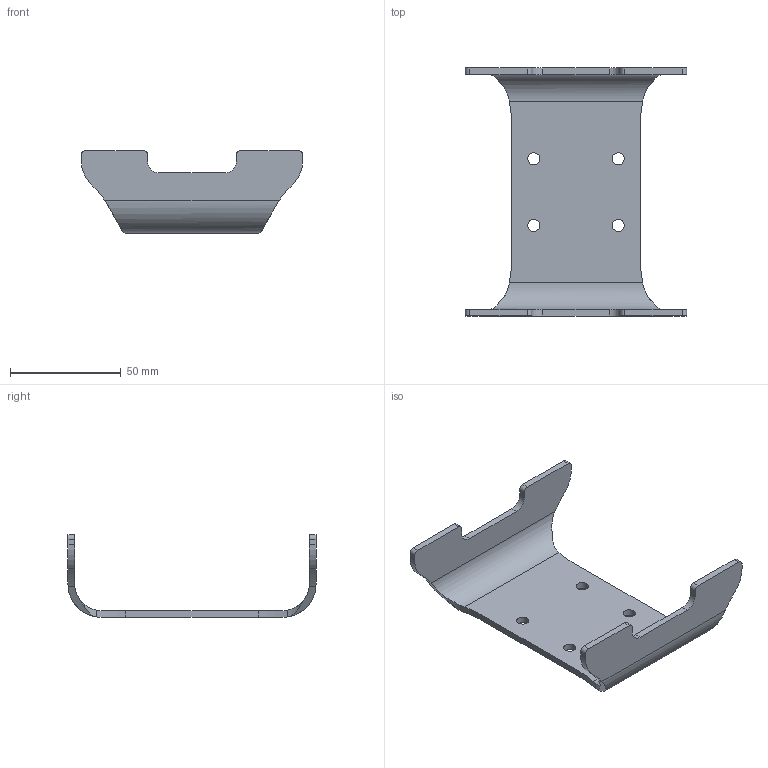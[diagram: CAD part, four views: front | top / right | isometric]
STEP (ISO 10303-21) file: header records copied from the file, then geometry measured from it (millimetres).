
FILE_DESCRIPTION( ( 'STEP AP203' ), '1' );
FILE_NAME( 'p:/temp/worker_44/temp/exporttempdir_4828_17_UeS2M/format_7/EC0730.stp', '2020-06-16T07:11:07', ( 'License CC BY-ND 4.0' ), ( 'CADENAS' ), ' ', 'PARTsolutions', ' ' );
FILE_SCHEMA( ( 'CONFIG_CONTROL_DESIGN' ) );
Length unit declared in the file: millimetre
Products named in the file (1): _EC0730
Bounding box: 100 x 112 x 37.29 mm (x, y, z)
Volume: 32903.6 mm3; surface area: 23892.4 mm2
Topology: 1 solids, 1 shells, 62 faces, 180 edges, 120 vertices
Faces by surface type: cylinder 36, plane 26
Full cylindrical faces by diameter (mm): 5.5 x4
Entity records: 2172 total; most frequent: CARTESIAN_POINT 467, ORIENTED_EDGE 352, DIRECTION 346, EDGE_CURVE 176, AXIS2_PLACEMENT_3D 131, VERTEX_POINT 120, LINE 84, VECTOR 84
